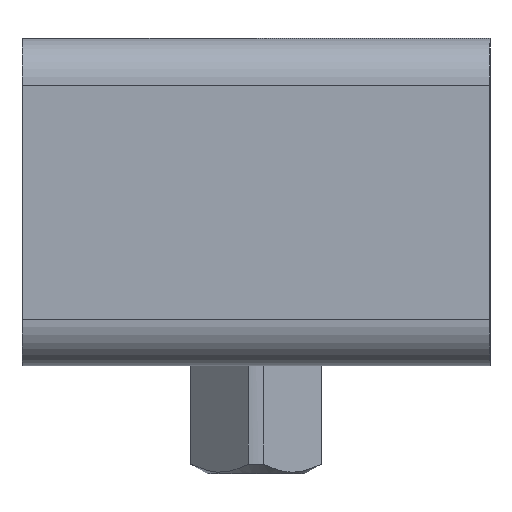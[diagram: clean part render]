
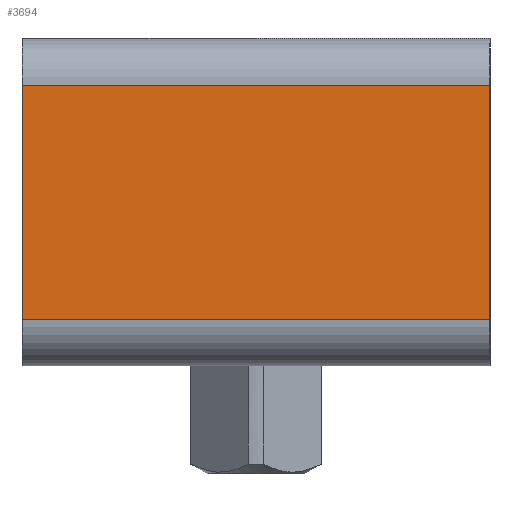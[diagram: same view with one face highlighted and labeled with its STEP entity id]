
A CAD part, left-side view. The second image highlights one B-rep face of the part: STEP entity #3694.
In plain terms, the highlighted planar face has unit normal (-1, 0, 0).
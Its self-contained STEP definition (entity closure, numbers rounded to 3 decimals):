
#22=DIRECTION('',(0.,0.,1.));
#23=VECTOR('',#22,50.);
#24=CARTESIAN_POINT('',(0.,0.,-60.));
#25=LINE('',#24,#23);
#282=DIRECTION('',(0.,0.,1.));
#283=VECTOR('',#282,50.);
#284=CARTESIAN_POINT('',(0.,100.,-60.));
#285=LINE('',#284,#283);
#475=DIRECTION('',(0.,1.,0.));
#476=VECTOR('',#475,100.);
#477=CARTESIAN_POINT('',(0.,0.,-10.));
#478=LINE('',#477,#476);
#484=DIRECTION('',(0.,1.,0.));
#485=VECTOR('',#484,100.);
#486=CARTESIAN_POINT('',(0.,0.,-60.));
#487=LINE('',#486,#485);
#2499=CARTESIAN_POINT('',(0.,0.,-60.));
#2500=CARTESIAN_POINT('',(0.,100.,-60.));
#2501=VERTEX_POINT('',#2499);
#2502=VERTEX_POINT('',#2500);
#2519=CARTESIAN_POINT('',(0.,0.,-10.));
#2520=CARTESIAN_POINT('',(0.,100.,-10.));
#2521=VERTEX_POINT('',#2519);
#2522=VERTEX_POINT('',#2520);
#3682=CARTESIAN_POINT('',(0.,0.,-70.));
#3683=DIRECTION('',(-1.,0.,0.));
#3684=DIRECTION('',(0.,0.,1.));
#3685=AXIS2_PLACEMENT_3D('',#3682,#3683,#3684);
#3686=PLANE('',#3685);
#3687=ORIENTED_EDGE('',*,*,#3106,.F.);
#3689=ORIENTED_EDGE('',*,*,#3688,.T.);
#3690=ORIENTED_EDGE('',*,*,#3483,.T.);
#3691=ORIENTED_EDGE('',*,*,#3676,.F.);
#3692=EDGE_LOOP('',(#3687,#3689,#3690,#3691));
#3693=FACE_OUTER_BOUND('',#3692,.F.);
#3694=ADVANCED_FACE('',(#3693),#3686,.T.);
#3106=EDGE_CURVE('',#2501,#2521,#25,.T.);
#3483=EDGE_CURVE('',#2502,#2522,#285,.T.);
#3676=EDGE_CURVE('',#2521,#2522,#478,.T.);
#3688=EDGE_CURVE('',#2501,#2502,#487,.T.);
